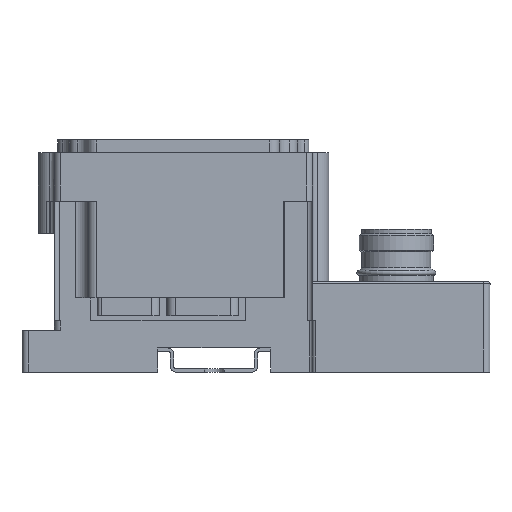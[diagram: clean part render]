
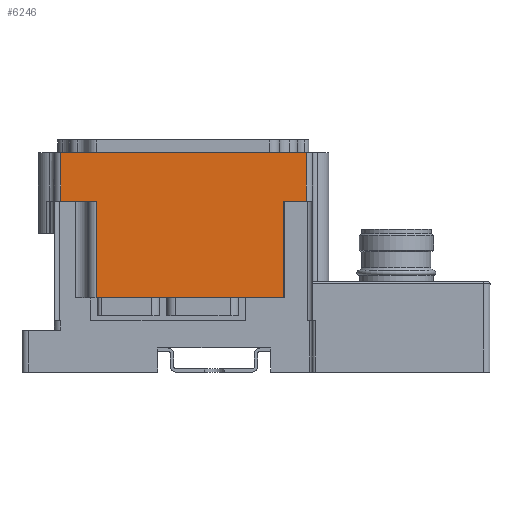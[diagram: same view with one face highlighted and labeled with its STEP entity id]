
A CAD part, left-side view. The second image highlights one B-rep face of the part: STEP entity #6246.
In plain terms, the highlighted planar face has unit normal (-1, 0, 0).
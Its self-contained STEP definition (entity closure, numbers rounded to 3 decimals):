
#5449=CARTESIAN_POINT('',(448.555,355.022,68.0));
#5450=VERTEX_POINT('',#5449);
#5458=CARTESIAN_POINT('',(448.555,279.022,68.));
#5459=VERTEX_POINT('',#5458);
#5460=CARTESIAN_POINT('',(448.555,355.022,68.0));
#5461=DIRECTION('',(0.0,-1.0,0.0));
#5462=VECTOR('',#5461,76.0);
#5463=LINE('',#5460,#5462);
#5464=EDGE_CURVE('',#5450,#5459,#5463,.T.);
#6184=CARTESIAN_POINT('',(448.555,355.022,68.0));
#6185=DIRECTION('',(-1.0,0.0,0.0));
#6186=DIRECTION('',(0.0,0.0,-1.0));
#6187=AXIS2_PLACEMENT_3D('',#6184,#6185,#6186);
#6188=PLANE('',#6187);
#6189=CARTESIAN_POINT('',(448.555,343.992,53.));
#6190=VERTEX_POINT('',#6189);
#6191=CARTESIAN_POINT('',(448.555,343.992,23.));
#6192=VERTEX_POINT('',#6191);
#6193=CARTESIAN_POINT('',(448.555,343.992,53.));
#6194=DIRECTION('',(0.0,0.0,-1.0));
#6195=VECTOR('',#6194,30.0);
#6196=LINE('',#6193,#6195);
#6197=EDGE_CURVE('',#6190,#6192,#6196,.T.);
#6198=ORIENTED_EDGE('',*,*,#6197,.T.);
#6199=CARTESIAN_POINT('',(448.555,285.984,23.));
#6200=VERTEX_POINT('',#6199);
#6201=CARTESIAN_POINT('',(448.555,343.992,23.));
#6202=DIRECTION('',(0.0,-1.0,0.0));
#6203=VECTOR('',#6202,58.008);
#6204=LINE('',#6201,#6203);
#6205=EDGE_CURVE('',#6192,#6200,#6204,.T.);
#6206=ORIENTED_EDGE('',*,*,#6205,.T.);
#6207=CARTESIAN_POINT('',(448.555,285.984,53.));
#6208=VERTEX_POINT('',#6207);
#6209=CARTESIAN_POINT('',(448.555,285.984,23.));
#6210=DIRECTION('',(0.0,0.0,1.0));
#6211=VECTOR('',#6210,30.);
#6212=LINE('',#6209,#6211);
#6213=EDGE_CURVE('',#6200,#6208,#6212,.T.);
#6214=ORIENTED_EDGE('',*,*,#6213,.T.);
#6215=CARTESIAN_POINT('',(448.555,279.022,53.));
#6216=VERTEX_POINT('',#6215);
#6217=CARTESIAN_POINT('',(448.555,285.984,53.));
#6218=DIRECTION('',(0.0,-1.0,0.0));
#6219=VECTOR('',#6218,6.962);
#6220=LINE('',#6217,#6219);
#6221=EDGE_CURVE('',#6208,#6216,#6220,.T.);
#6222=ORIENTED_EDGE('',*,*,#6221,.T.);
#6223=CARTESIAN_POINT('',(448.555,279.022,68.));
#6224=DIRECTION('',(0.0,0.0,-1.0));
#6225=VECTOR('',#6224,15.0);
#6226=LINE('',#6223,#6225);
#6227=EDGE_CURVE('',#5459,#6216,#6226,.T.);
#6228=ORIENTED_EDGE('',*,*,#6227,.F.);
#6229=ORIENTED_EDGE('',*,*,#5464,.F.);
#6230=CARTESIAN_POINT('',(448.555,355.022,53.0));
#6231=VERTEX_POINT('',#6230);
#6232=CARTESIAN_POINT('',(448.555,355.022,68.0));
#6233=DIRECTION('',(0.0,0.0,-1.0));
#6234=VECTOR('',#6233,15.0);
#6235=LINE('',#6232,#6234);
#6236=EDGE_CURVE('',#5450,#6231,#6235,.T.);
#6237=ORIENTED_EDGE('',*,*,#6236,.T.);
#6238=CARTESIAN_POINT('',(448.555,355.022,53.0));
#6239=DIRECTION('',(0.0,-1.0,0.0));
#6240=VECTOR('',#6239,11.03);
#6241=LINE('',#6238,#6240);
#6242=EDGE_CURVE('',#6231,#6190,#6241,.T.);
#6243=ORIENTED_EDGE('',*,*,#6242,.T.);
#6244=EDGE_LOOP('',(#6198,#6206,#6214,#6222,#6228,#6229,#6237,#6243));
#6245=FACE_OUTER_BOUND('',#6244,.T.);
#6246=ADVANCED_FACE('',(#6245),#6188,.T.);
